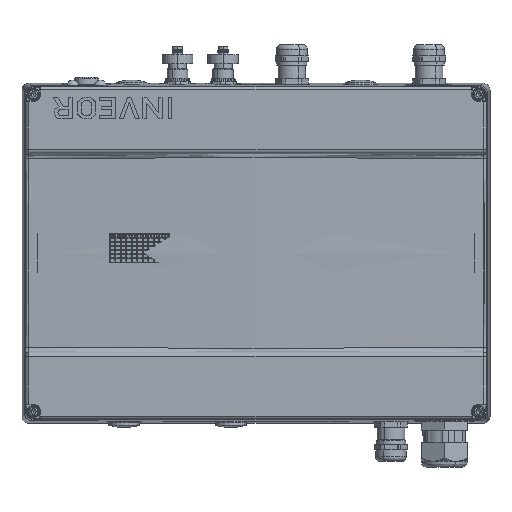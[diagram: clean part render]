
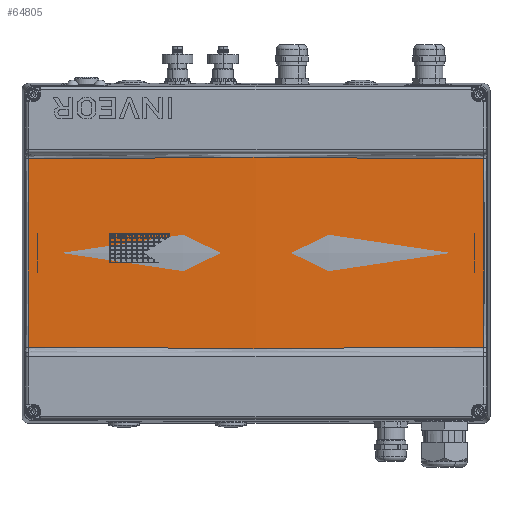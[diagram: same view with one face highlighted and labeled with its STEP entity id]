
A CAD part, top view. The second image highlights one B-rep face of the part: STEP entity #64805.
In plain terms, the highlighted toroidal (fillet/blend) face has major radius 3002.64 mm and minor radius 800 mm.
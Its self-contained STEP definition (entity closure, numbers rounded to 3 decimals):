
#64780=AXIS2_PLACEMENT_3D('Torus Axis2P3D',#64777,#64778,#64779) ;
#62962=CARTESIAN_POINT('Vertex',(-4.239,-61.67,90.16)) ;
#63036=CARTESIAN_POINT('Vertex',(-4.239,61.883,90.16)) ;
#63040=CARTESIAN_POINT('Control Point',(-4.239,-61.67,90.16)) ;
#63041=CARTESIAN_POINT('Control Point',(-4.258,-54.544,90.713)) ;
#63042=CARTESIAN_POINT('Control Point',(-4.275,-47.412,91.187)) ;
#63043=CARTESIAN_POINT('Control Point',(-4.289,-40.276,91.58)) ;
#63044=CARTESIAN_POINT('Control Point',(-4.326,-15.563,92.665)) ;
#63045=CARTESIAN_POINT('Control Point',(-4.331,9.182,92.793)) ;
#63046=CARTESIAN_POINT('Control Point',(-4.317,26.775,92.399)) ;
#63047=CARTESIAN_POINT('Control Point',(-4.287,44.348,91.521)) ;
#63048=CARTESIAN_POINT('Control Point',(-4.239,61.883,90.16)) ;
#63653=CARTESIAN_POINT('Vertex',(-302.761,-61.67,90.16)) ;
#63724=CARTESIAN_POINT('Vertex',(-302.761,61.883,90.16)) ;
#63728=CARTESIAN_POINT('Control Point',(-302.761,-61.67,90.16)) ;
#63729=CARTESIAN_POINT('Control Point',(-302.736,-52.624,90.862)) ;
#63730=CARTESIAN_POINT('Control Point',(-302.716,-43.568,91.436)) ;
#63731=CARTESIAN_POINT('Control Point',(-302.701,-34.505,91.881)) ;
#63732=CARTESIAN_POINT('Control Point',(-302.671,-9.782,92.742)) ;
#63733=CARTESIAN_POINT('Control Point',(-302.674,14.96,92.646)) ;
#63734=CARTESIAN_POINT('Control Point',(-302.69,30.623,92.201)) ;
#63735=CARTESIAN_POINT('Control Point',(-302.719,46.268,91.372)) ;
#63736=CARTESIAN_POINT('Control Point',(-302.761,61.883,90.16)) ;
#64742=CARTESIAN_POINT('Control Point',(-302.761,-61.67,90.16)) ;
#64743=CARTESIAN_POINT('Control Point',(-301.742,-61.672,90.2)) ;
#64744=CARTESIAN_POINT('Control Point',(-300.724,-61.674,90.239)) ;
#64745=CARTESIAN_POINT('Control Point',(-299.706,-61.677,90.279)) ;
#64746=CARTESIAN_POINT('Control Point',(-291.721,-61.7,90.583)) ;
#64747=CARTESIAN_POINT('Control Point',(-283.736,-61.741,90.864)) ;
#64748=CARTESIAN_POINT('Control Point',(-276.769,-61.786,91.093)) ;
#64749=CARTESIAN_POINT('Control Point',(-261.351,-61.9,91.564)) ;
#64750=CARTESIAN_POINT('Control Point',(-245.932,-62.036,91.954)) ;
#64751=CARTESIAN_POINT('Control Point',(-237.481,-62.112,92.144)) ;
#64752=CARTESIAN_POINT('Control Point',(-220.579,-62.261,92.478)) ;
#64753=CARTESIAN_POINT('Control Point',(-203.676,-62.389,92.719)) ;
#64754=CARTESIAN_POINT('Control Point',(-195.225,-62.445,92.817)) ;
#64755=CARTESIAN_POINT('Control Point',(-178.323,-62.533,92.968)) ;
#64756=CARTESIAN_POINT('Control Point',(-161.421,-62.572,93.028)) ;
#64757=CARTESIAN_POINT('Control Point',(-152.97,-62.577,93.036)) ;
#64758=CARTESIAN_POINT('Control Point',(-127.615,-62.549,92.992)) ;
#64759=CARTESIAN_POINT('Control Point',(-102.26,-62.401,92.746)) ;
#64760=CARTESIAN_POINT('Control Point',(-85.367,-62.258,92.492)) ;
#64761=CARTESIAN_POINT('Control Point',(-60.014,-62.018,91.972)) ;
#64762=CARTESIAN_POINT('Control Point',(-34.664,-61.815,91.237)) ;
#64763=CARTESIAN_POINT('Control Point',(-26.214,-61.756,90.968)) ;
#64764=CARTESIAN_POINT('Control Point',(-16.749,-61.704,90.639)) ;
#64765=CARTESIAN_POINT('Control Point',(-7.285,-61.677,90.278)) ;
#64766=CARTESIAN_POINT('Control Point',(-6.269,-61.674,90.239)) ;
#64767=CARTESIAN_POINT('Control Point',(-5.254,-61.672,90.2)) ;
#64768=CARTESIAN_POINT('Control Point',(-4.239,-61.67,90.16)) ;
#64777=CARTESIAN_POINT('Axis2P3D Location',(-153.5,0.107,-3707.164)) ;
#64783=CARTESIAN_POINT('Control Point',(-302.761,61.883,90.16)) ;
#64784=CARTESIAN_POINT('Control Point',(-286.327,61.917,90.803)) ;
#64785=CARTESIAN_POINT('Control Point',(-269.891,62.032,91.352)) ;
#64786=CARTESIAN_POINT('Control Point',(-253.454,62.181,91.808)) ;
#64787=CARTESIAN_POINT('Control Point',(-220.117,62.494,92.552)) ;
#64788=CARTESIAN_POINT('Control Point',(-186.775,62.726,92.937)) ;
#64789=CARTESIAN_POINT('Control Point',(-169.873,62.796,93.042)) ;
#64790=CARTESIAN_POINT('Control Point',(-136.066,62.812,93.074)) ;
#64791=CARTESIAN_POINT('Control Point',(-102.26,62.615,92.746)) ;
#64792=CARTESIAN_POINT('Control Point',(-85.367,62.472,92.492)) ;
#64793=CARTESIAN_POINT('Control Point',(-58.999,62.223,91.951)) ;
#64794=CARTESIAN_POINT('Control Point',(-32.633,62.013,91.178)) ;
#64795=CARTESIAN_POINT('Control Point',(-23.168,61.949,90.87)) ;
#64796=CARTESIAN_POINT('Control Point',(-13.703,61.903,90.531)) ;
#64797=CARTESIAN_POINT('Control Point',(-4.239,61.883,90.16)) ;
#64778=DIRECTION('Axis2P3D Direction',(0.,1.,0.)) ;
#64779=DIRECTION('Axis2P3D XDirection',(-0.04,0.,0.999)) ;
#64800=ORIENTED_EDGE('',*,*,#63737,.T.) ;
#64801=ORIENTED_EDGE('',*,*,#64769,.F.) ;
#64802=ORIENTED_EDGE('',*,*,#63049,.T.) ;
#64803=ORIENTED_EDGE('',*,*,#64798,.T.) ;
#64805=ADVANCED_FACE('TOP COVER . MET - PLK BG-C.1\\PartBody',(#64804),#64781,.T.) ;
#63039=B_SPLINE_CURVE_WITH_KNOTS('',5,(#63040,#63041,#63042,#63043,#63044,#63045,#63046,#63047,#63048),.UNSPECIFIED.,.F.,.U.,(6,3,6),(125.322,175.795,300.009),.UNSPECIFIED.) ;
#63727=B_SPLINE_CURVE_WITH_KNOTS('',5,(#63728,#63729,#63730,#63731,#63732,#63733,#63734,#63735,#63736),.UNSPECIFIED.,.F.,.U.,(6,3,6),(125.322,189.397,300.009),.UNSPECIFIED.) ;
#64741=B_SPLINE_CURVE_WITH_KNOTS('',5,(#64742,#64743,#64744,#64745,#64746,#64747,#64748,#64749,#64750,#64751,#64752,#64753,#64754,#64755,#64756,#64757,#64758,#64759,#64760,#64761,#64762,#64763,#64764,#64765,#64766,#64767,#64768),.UNSPECIFIED.,.F.,.U.,(6,3,3,3,3,3,3,3,6),(79.46,85.954,130.386,184.276,238.159,292.037,399.81,453.698,460.172),.UNSPECIFIED.) ;
#64782=B_SPLINE_CURVE_WITH_KNOTS('',5,(#64783,#64784,#64785,#64786,#64787,#64788,#64789,#64790,#64791,#64792,#64793,#64794,#64795,#64796,#64797),.UNSPECIFIED.,.F.,.U.,(6,3,3,3,6),(79.46,184.276,292.037,399.81,460.172),.UNSPECIFIED.) ;
#64781=TOROIDAL_SURFACE('homeo Torus',#64780,3002.645,800.) ;
#63049=EDGE_CURVE('',#62963,#63037,#63039,.T.) ;
#63737=EDGE_CURVE('',#63725,#63654,#63727,.F.) ;
#64769=EDGE_CURVE('',#62963,#63654,#64741,.F.) ;
#64798=EDGE_CURVE('',#63037,#63725,#64782,.F.) ;
#64799=EDGE_LOOP('',(#64800,#64801,#64802,#64803)) ;
#64804=FACE_OUTER_BOUND('',#64799,.T.) ;
#62963=VERTEX_POINT('',#62962) ;
#63037=VERTEX_POINT('',#63036) ;
#63654=VERTEX_POINT('',#63653) ;
#63725=VERTEX_POINT('',#63724) ;
